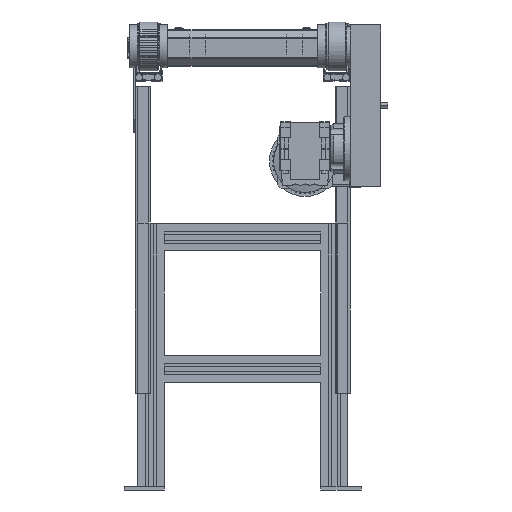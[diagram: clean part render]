
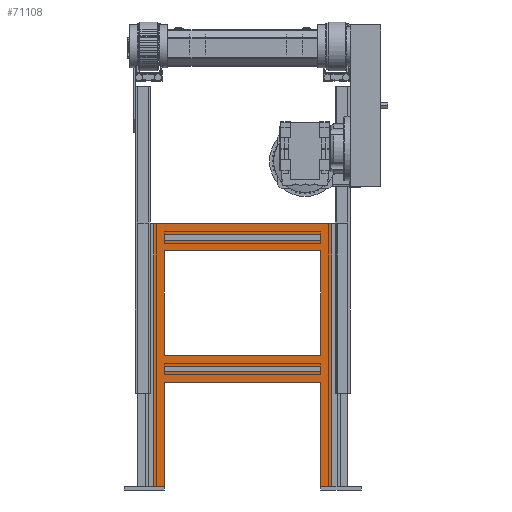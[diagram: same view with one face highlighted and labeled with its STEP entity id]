
A CAD part, front view. The second image highlights one B-rep face of the part: STEP entity #71108.
In plain terms, the highlighted planar face has unit normal (0, -1, 0).
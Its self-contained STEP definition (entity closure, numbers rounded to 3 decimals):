
#1156=FACE_BOUND('',#9522,.T.);
#1157=FACE_BOUND('',#9523,.T.);
#1158=FACE_BOUND('',#9524,.T.);
#5989=FACE_OUTER_BOUND('',#9521,.T.);
#9521=EDGE_LOOP('',(#52387,#52388,#52389,#52390,#52391,#52392,#52393,#52394));
#9522=EDGE_LOOP('',(#52395,#52396,#52397,#52398));
#9523=EDGE_LOOP('',(#52399,#52400,#52401,#52402));
#9524=EDGE_LOOP('',(#52403,#52404,#52405,#52406));
#14749=LINE('',#107063,#22049);
#14824=LINE('',#107231,#22124);
#14830=LINE('',#107245,#22130);
#14846=LINE('',#107278,#22146);
#14870=LINE('',#107329,#22170);
#15018=LINE('',#107623,#22318);
#15045=LINE('',#107676,#22345);
#15070=LINE('',#107725,#22370);
#15082=LINE('',#107749,#22382);
#15085=LINE('',#107755,#22385);
#15132=LINE('',#107848,#22432);
#15136=LINE('',#107856,#22436);
#15139=LINE('',#107861,#22439);
#15148=LINE('',#107876,#22448);
#15159=LINE('',#107898,#22459);
#15171=LINE('',#107922,#22471);
#15213=LINE('',#108003,#22513);
#15217=LINE('',#108010,#22517);
#15314=LINE('',#108200,#22614);
#15315=LINE('',#108202,#22615);
#22049=VECTOR('',#86417,19.95);
#22124=VECTOR('',#86546,194.5);
#22130=VECTOR('',#86556,10.1);
#22146=VECTOR('',#86576,194.5);
#22170=VECTOR('',#86610,10.1);
#22318=VECTOR('',#86844,489.);
#22345=VECTOR('',#86891,19.95);
#22370=VECTOR('',#86948,291.);
#22382=VECTOR('',#86972,291.);
#22385=VECTOR('',#86977,291.);
#22432=VECTOR('',#87064,291.);
#22436=VECTOR('',#87074,194.5);
#22439=VECTOR('',#87079,10.1);
#22448=VECTOR('',#87096,194.5);
#22459=VECTOR('',#87113,291.);
#22471=VECTOR('',#87137,291.);
#22513=VECTOR('',#87217,291.);
#22517=VECTOR('',#87227,10.1);
#22614=VECTOR('',#87410,489.);
#22615=VECTOR('',#87413,330.9);
#29292=VERTEX_POINT('',#107061);
#29293=VERTEX_POINT('',#107062);
#29356=VERTEX_POINT('',#107224);
#29359=VERTEX_POINT('',#107229);
#29364=VERTEX_POINT('',#107242);
#29365=VERTEX_POINT('',#107244);
#29379=VERTEX_POINT('',#107275);
#29380=VERTEX_POINT('',#107277);
#29400=VERTEX_POINT('',#107325);
#29402=VERTEX_POINT('',#107328);
#29504=VERTEX_POINT('',#107619);
#29505=VERTEX_POINT('',#107621);
#29529=VERTEX_POINT('',#107722);
#29535=VERTEX_POINT('',#107747);
#29537=VERTEX_POINT('',#107752);
#29562=VERTEX_POINT('',#107845);
#29564=VERTEX_POINT('',#107855);
#29575=VERTEX_POINT('',#107895);
#29581=VERTEX_POINT('',#107920);
#29651=VERTEX_POINT('',#108198);
#37370=EDGE_CURVE('',#29292,#29293,#14749,.T.);
#37455=EDGE_CURVE('',#29356,#29359,#14824,.T.);
#37461=EDGE_CURVE('',#29365,#29364,#14830,.T.);
#37477=EDGE_CURVE('',#29380,#29379,#14846,.T.);
#37501=EDGE_CURVE('',#29402,#29400,#14870,.T.);
#37649=EDGE_CURVE('',#29505,#29504,#15018,.T.);
#37676=EDGE_CURVE('',#29505,#29380,#15045,.T.);
#37703=EDGE_CURVE('',#29365,#29529,#15070,.T.);
#37715=EDGE_CURVE('',#29364,#29535,#15082,.T.);
#37718=EDGE_CURVE('',#29356,#29537,#15085,.T.);
#37765=EDGE_CURVE('',#29379,#29562,#15132,.T.);
#37769=EDGE_CURVE('',#29537,#29564,#15136,.T.);
#37772=EDGE_CURVE('',#29529,#29535,#15139,.T.);
#37781=EDGE_CURVE('',#29293,#29562,#15148,.T.);
#37792=EDGE_CURVE('',#29402,#29575,#15159,.T.);
#37804=EDGE_CURVE('',#29400,#29581,#15171,.T.);
#37846=EDGE_CURVE('',#29359,#29564,#15213,.T.);
#37850=EDGE_CURVE('',#29575,#29581,#15217,.T.);
#37947=EDGE_CURVE('',#29292,#29651,#15314,.T.);
#37948=EDGE_CURVE('',#29504,#29651,#15315,.T.);
#52387=ORIENTED_EDGE('',*,*,#37765,.T.);
#52388=ORIENTED_EDGE('',*,*,#37781,.F.);
#52389=ORIENTED_EDGE('',*,*,#37370,.F.);
#52390=ORIENTED_EDGE('',*,*,#37947,.T.);
#52391=ORIENTED_EDGE('',*,*,#37948,.F.);
#52392=ORIENTED_EDGE('',*,*,#37649,.F.);
#52393=ORIENTED_EDGE('',*,*,#37676,.T.);
#52394=ORIENTED_EDGE('',*,*,#37477,.T.);
#52395=ORIENTED_EDGE('',*,*,#37715,.T.);
#52396=ORIENTED_EDGE('',*,*,#37772,.F.);
#52397=ORIENTED_EDGE('',*,*,#37703,.F.);
#52398=ORIENTED_EDGE('',*,*,#37461,.T.);
#52399=ORIENTED_EDGE('',*,*,#37804,.T.);
#52400=ORIENTED_EDGE('',*,*,#37850,.F.);
#52401=ORIENTED_EDGE('',*,*,#37792,.F.);
#52402=ORIENTED_EDGE('',*,*,#37501,.T.);
#52403=ORIENTED_EDGE('',*,*,#37718,.F.);
#52404=ORIENTED_EDGE('',*,*,#37455,.T.);
#52405=ORIENTED_EDGE('',*,*,#37846,.T.);
#52406=ORIENTED_EDGE('',*,*,#37769,.F.);
#64831=PLANE('',#75657);
#71108=ADVANCED_FACE('',(#5989,#1156,#1157,#1158),#64831,.T.);
#75657=AXIS2_PLACEMENT_3D('',#108201,#87411,#87412);
#86417=DIRECTION('',(-1.,0.,0.));
#86546=DIRECTION('',(0.,0.,1.));
#86556=DIRECTION('',(0.,0.,1.));
#86576=DIRECTION('',(0.,0.,1.));
#86610=DIRECTION('',(0.,0.,1.));
#86844=DIRECTION('',(0.,0.,1.));
#86891=DIRECTION('',(1.,0.,0.));
#86948=DIRECTION('',(1.,0.,0.));
#86972=DIRECTION('',(1.,0.,0.));
#86977=DIRECTION('',(1.,0.,0.));
#87064=DIRECTION('',(1.,0.,0.));
#87074=DIRECTION('',(0.,0.,1.));
#87079=DIRECTION('',(0.,0.,1.));
#87096=DIRECTION('',(0.,0.,1.));
#87113=DIRECTION('',(1.,0.,0.));
#87137=DIRECTION('',(1.,0.,0.));
#87217=DIRECTION('',(1.,0.,0.));
#87227=DIRECTION('',(0.,0.,1.));
#87410=DIRECTION('',(0.,0.,1.));
#87411=DIRECTION('center_axis',(0.,-1.,0.));
#87412=DIRECTION('ref_axis',(0.,0.,-1.));
#87413=DIRECTION('',(1.,0.,0.));
#107061=CARTESIAN_POINT('',(165.45,-345.,-819.));
#107062=CARTESIAN_POINT('',(145.5,-345.,-819.));
#107063=CARTESIAN_POINT('',(174.225,-345.,-819.));
#107224=CARTESIAN_POINT('',(-145.5,-345.,-574.5));
#107229=CARTESIAN_POINT('',(-145.5,-345.,-380.));
#107231=CARTESIAN_POINT('',(-145.5,-345.,-819.));
#107242=CARTESIAN_POINT('',(-145.5,-345.,-594.45));
#107244=CARTESIAN_POINT('',(-145.5,-345.,-604.55));
#107245=CARTESIAN_POINT('',(-145.5,-345.,-819.));
#107275=CARTESIAN_POINT('',(-145.5,-345.,-624.5));
#107277=CARTESIAN_POINT('',(-145.5,-345.,-819.));
#107278=CARTESIAN_POINT('',(-145.5,-345.,-819.));
#107325=CARTESIAN_POINT('',(-145.5,-345.,-349.95));
#107328=CARTESIAN_POINT('',(-145.5,-345.,-360.05));
#107329=CARTESIAN_POINT('',(-145.5,-345.,-819.));
#107619=CARTESIAN_POINT('',(-165.45,-345.,-330.));
#107621=CARTESIAN_POINT('',(-165.45,-345.,-819.));
#107623=CARTESIAN_POINT('',(-165.45,-345.,-819.));
#107676=CARTESIAN_POINT('',(-174.225,-345.,-819.));
#107722=CARTESIAN_POINT('',(145.5,-345.,-604.55));
#107725=CARTESIAN_POINT('',(0.,-345.,-604.55));
#107747=CARTESIAN_POINT('',(145.5,-345.,-594.45));
#107749=CARTESIAN_POINT('',(0.,-345.,-594.45));
#107752=CARTESIAN_POINT('',(145.5,-345.,-574.5));
#107755=CARTESIAN_POINT('',(0.,-345.,-574.5));
#107845=CARTESIAN_POINT('',(145.5,-345.,-624.5));
#107848=CARTESIAN_POINT('',(0.,-345.,-624.5));
#107855=CARTESIAN_POINT('',(145.5,-345.,-380.));
#107856=CARTESIAN_POINT('',(145.5,-345.,-819.));
#107861=CARTESIAN_POINT('',(145.5,-345.,-819.));
#107876=CARTESIAN_POINT('',(145.5,-345.,-819.));
#107895=CARTESIAN_POINT('',(145.5,-345.,-360.05));
#107898=CARTESIAN_POINT('',(0.,-345.,-360.05));
#107920=CARTESIAN_POINT('',(145.5,-345.,-349.95));
#107922=CARTESIAN_POINT('',(0.,-345.,-349.95));
#108003=CARTESIAN_POINT('',(0.,-345.,-380.));
#108010=CARTESIAN_POINT('',(145.5,-345.,-819.));
#108198=CARTESIAN_POINT('',(165.45,-345.,-330.));
#108200=CARTESIAN_POINT('',(165.45,-345.,-819.));
#108201=CARTESIAN_POINT('Origin',(165.45,-345.,-819.));
#108202=CARTESIAN_POINT('',(0.,-345.,-330.));
